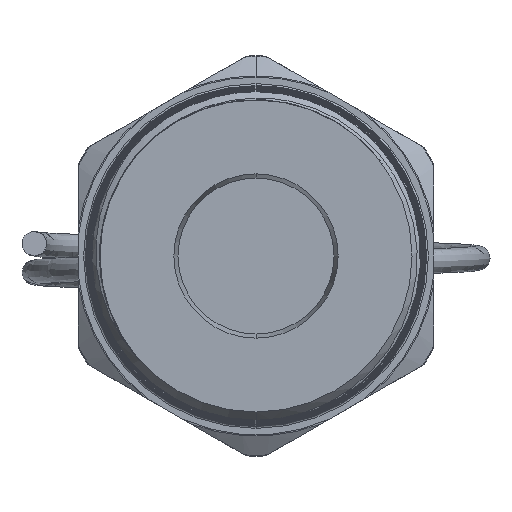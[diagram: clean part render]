
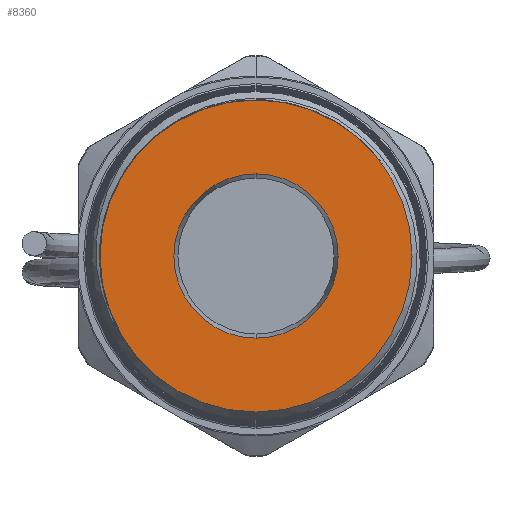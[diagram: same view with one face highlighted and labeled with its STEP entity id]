
A CAD part, front view. The second image highlights one B-rep face of the part: STEP entity #8360.
In plain terms, the highlighted planar face has unit normal (0, -1, 0).
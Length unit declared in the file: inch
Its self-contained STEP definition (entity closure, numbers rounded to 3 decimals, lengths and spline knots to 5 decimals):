
#570 = AXIS2_PLACEMENT_3D ( 'NONE', #12079, #701, #6609 ) ;
#701 = DIRECTION ( 'NONE',  ( 0., 1., 0. ) ) ;
#1034 = FACE_BOUND ( 'NONE', #6132, .T. ) ;
#1174 = CARTESIAN_POINT ( 'NONE',  ( 0., 0., 0. ) ) ;
#1248 = PLANE ( 'NONE',  #13780 ) ;
#1306 = DIRECTION ( 'NONE',  ( 0., 0., 1. ) ) ;
#2151 = VERTEX_POINT ( 'NONE', #13688 ) ;
#2197 = CARTESIAN_POINT ( 'NONE',  ( 0., 0., -0.38 ) ) ;
#2341 = VERTEX_POINT ( 'NONE', #2197 ) ;
#2399 = DIRECTION ( 'NONE',  ( 0., 0., 1. ) ) ;
#3216 = FACE_OUTER_BOUND ( 'NONE', #11052, .T. ) ;
#4179 = DIRECTION ( 'NONE',  ( 0., 1., 0. ) ) ;
#4209 = EDGE_CURVE ( 'NONE', #2151, #5422, #15671, .T. ) ;
#4229 = EDGE_CURVE ( 'NONE', #12395, #2341, #9593, .T. ) ;
#4925 = CARTESIAN_POINT ( 'NONE',  ( 0., 0., -0.2 ) ) ;
#5250 = AXIS2_PLACEMENT_3D ( 'NONE', #1174, #9646, #2399 ) ;
#5422 = VERTEX_POINT ( 'NONE', #15081 ) ;
#5701 = CARTESIAN_POINT ( 'NONE',  ( 0., 0., 0.38 ) ) ;
#5712 = CARTESIAN_POINT ( 'NONE',  ( 0., 0., 0. ) ) ;
#5716 = EDGE_CURVE ( 'NONE', #2341, #12395, #8850, .T. ) ;
#5875 = ORIENTED_EDGE ( 'NONE', *, *, #4209, .T. ) ;
#6132 = EDGE_LOOP ( 'NONE', ( #9123, #5875 ) ) ;
#6609 = DIRECTION ( 'NONE',  ( 0., 0., 1. ) ) ;
#6913 = DIRECTION ( 'NONE',  ( 0., 0., 1. ) ) ;
#8360 = ADVANCED_FACE ( 'NONE', ( #3216, #1034 ), #1248, .F. ) ;
#8559 = DIRECTION ( 'NONE',  ( 0., 1., 0. ) ) ;
#8850 = CIRCLE ( 'NONE', #13120, 0.38 ) ;
#9123 = ORIENTED_EDGE ( 'NONE', *, *, #13411, .T. ) ;
#9593 = CIRCLE ( 'NONE', #570, 0.38 ) ;
#9646 = DIRECTION ( 'NONE',  ( 0., 1., 0. ) ) ;
#10425 = CIRCLE ( 'NONE', #10465, 0.2 ) ;
#10465 = AXIS2_PLACEMENT_3D ( 'NONE', #11416, #4179, #12644 ) ;
#11052 = EDGE_LOOP ( 'NONE', ( #11338, #14773 ) ) ;
#11338 = ORIENTED_EDGE ( 'NONE', *, *, #4229, .F. ) ;
#11416 = CARTESIAN_POINT ( 'NONE',  ( 0., 0., 0. ) ) ;
#12079 = CARTESIAN_POINT ( 'NONE',  ( 0., 0., 0. ) ) ;
#12395 = VERTEX_POINT ( 'NONE', #5701 ) ;
#12644 = DIRECTION ( 'NONE',  ( 0., 0., 1. ) ) ;
#13120 = AXIS2_PLACEMENT_3D ( 'NONE', #5712, #14164, #6913 ) ;
#13411 = EDGE_CURVE ( 'NONE', #5422, #2151, #10425, .T. ) ;
#13688 = CARTESIAN_POINT ( 'NONE',  ( 0., 0., 0.2 ) ) ;
#13780 = AXIS2_PLACEMENT_3D ( 'NONE', #4925, #8559, #1306 ) ;
#14164 = DIRECTION ( 'NONE',  ( 0., 1., 0. ) ) ;
#14773 = ORIENTED_EDGE ( 'NONE', *, *, #5716, .F. ) ;
#15081 = CARTESIAN_POINT ( 'NONE',  ( 0., 0., -0.2 ) ) ;
#15671 = CIRCLE ( 'NONE', #5250, 0.2 ) ;
